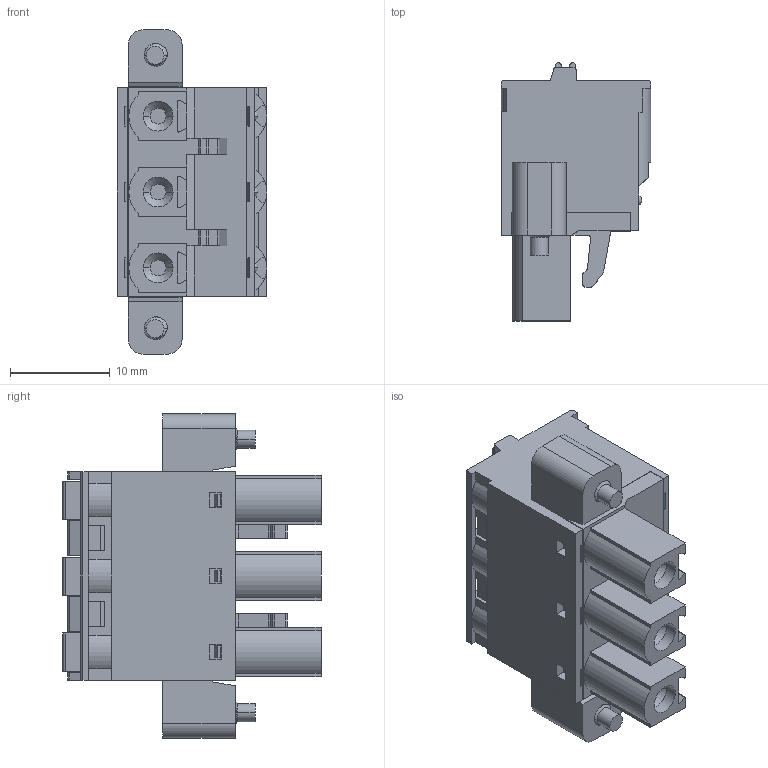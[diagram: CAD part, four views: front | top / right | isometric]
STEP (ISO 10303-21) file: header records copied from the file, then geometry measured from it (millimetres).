
FILE_DESCRIPTION((''),'2;1');
FILE_NAME('33','2019-04-10T',('zhenbing.lai'),(''),'CREO PARAMETRIC BY PTC INC, 2016260','CREO PARAMETRIC BY PTC INC, 2016260','');
FILE_SCHEMA(('CONFIG_CONTROL_DESIGN'));
Length unit declared in the file: millimetre
Products named in the file (1): 33
Bounding box: 15 x 25.9 x 32.54 mm (x, y, z)
Volume: 5521.7 mm3; surface area: 3341.5 mm2
Topology: 1 solids, 3 shells, 443 faces, 1196 edges, 784 vertices
Faces by surface type: plane 327, cylinder 92, cone 10, sphere 6, bspline 4, torus 4
Entity records: 14295 total; most frequent: CARTESIAN_POINT 2989, ORIENTED_EDGE 2380, DIRECTION 2273, EDGE_CURVE 1190, VECTOR 905, LINE 905, VERTEX_POINT 784, AXIS2_PLACEMENT_3D 684
